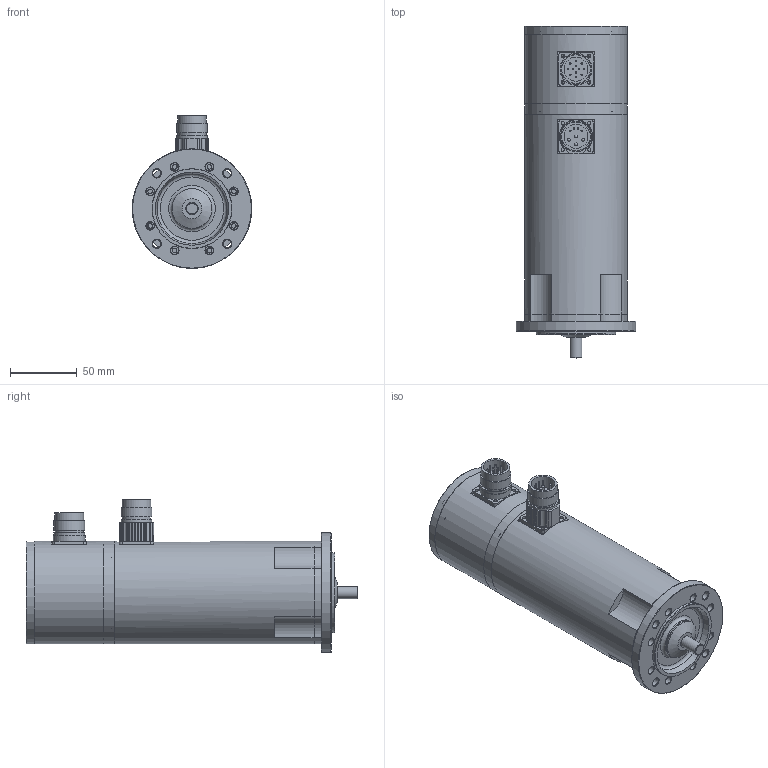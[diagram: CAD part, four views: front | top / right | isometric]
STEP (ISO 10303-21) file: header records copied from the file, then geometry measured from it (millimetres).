
FILE_DESCRIPTION(/* description */ (''),/* implementation_level */ '2;1');
FILE_NAME(/* name */ 'ksa_2x8e_ixx',/* time_stamp */ '2007-03-13T08:14:59+01:00',/* author */ (''),/* organization */ (''),/* preprocessor_version */ 'ST-DEVELOPER v8',/* originating_system */ 'UNIGRAPHICS SOLUTIONS - UNIGRAPHICS 18.0',/* authorisation */ '');
FILE_SCHEMA (('AUTOMOTIVE_DESIGN { 1 2 10303 214 0 1 1 1 }'));
Length unit declared in the file: millimetre
Products named in the file (11): 014261_0; 014260_0; 064281_0; 089274_0; 112082_0; 06331002_0; DIN3760_org_A12x24x7_0; Rotor_SA 24.. E_0; Gehaeuse_SA 24.. E_0; 112068_0; KSA246_E-I27_0
Assembly tree (10 placements, depth 2):
  KSA246_E-I27_0
    112068_0
    Gehaeuse_SA 24.. E_0
    Rotor_SA 24.. E_0
    DIN3760_org_A12x24x7_0
    06331002_0
    112082_0
    089274_0
    064281_0
    014260_0
    014261_0
Bounding box: 90 x 249.5 x 115 mm (x, y, z)
Volume: 534503.1 mm3; surface area: 167159.6 mm2
Topology: 10 solids, 10 shells, 431 faces, 1053 edges, 676 vertices
Faces by surface type: cylinder 215, plane 104, cone 75, sphere 20, torus 17
Full cylindrical faces by diameter (mm): 1 x16, 2 x4, 2.135 x4, 2.7 x8, 3.013 x9, 3.4 x12, 4 x1, 4.5 x12, 6 x12, 6.5 x4, 7 x1, 8 x12, 8.52 x1, 8.9 x1, 9 x1, 12 x2, 12.3 x1, 15 x1, 18 x2, 20 x5, 21 x3, 21.5 x2, 23 x5, 24 x3, 26 x1, 28 x1, 30 x2, 52 x1, 56 x1, 57 x2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
Entity records: 11083 total; most frequent: DIRECTION 2078, CARTESIAN_POINT 1790, ORIENTED_EDGE 1332, AXIS2_PLACEMENT_3D 980, EDGE_LOOP 840, EDGE_CURVE 666, FACE_BOUND 574, VERTEX_POINT 570
